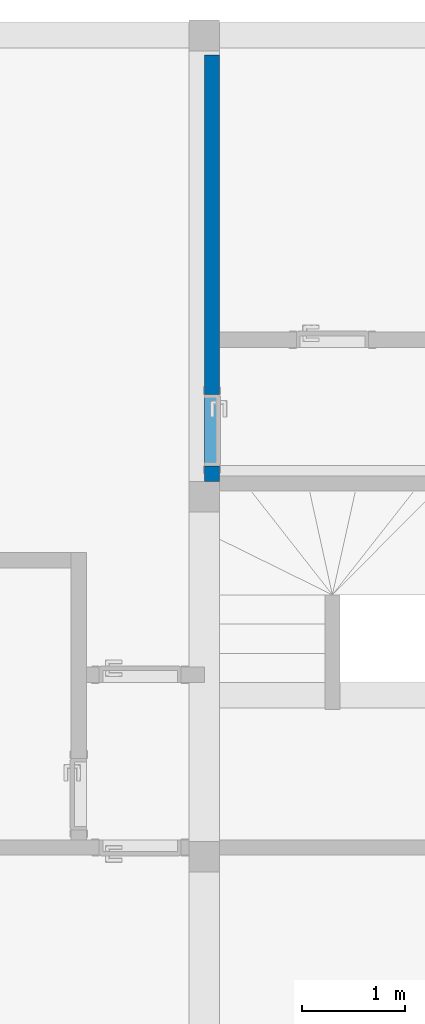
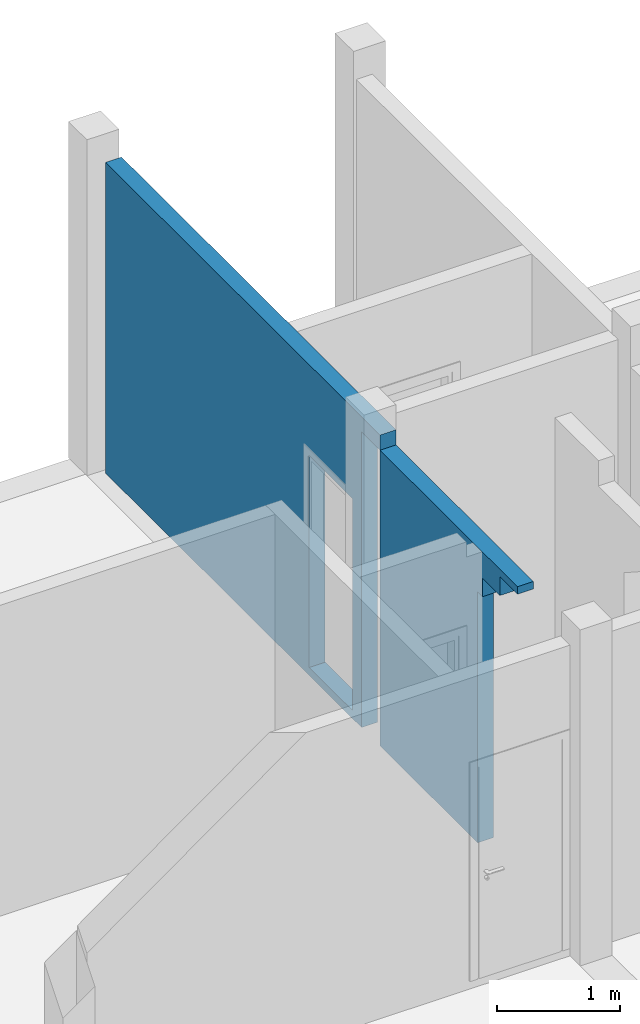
# One storey, part 8 of 11: 1 wall, 3 openings.
"""IFC2X3 building model written with IfcOpenShell, lengths in metres."""

import ifcopenshell
import ifcopenshell.guid

model = None  # the IFC model being written
_history = None  # IfcOwnerHistory: only IFC2X3 demands one
_inside = {}  # id of a spatial element -> (the spatial element, [elements in it])
_under = {}  # id of a project, library or spatial element -> (it, [spatial elements below it])
_declared = {}  # id of a project -> (the project, [libraries it declares])
_typed = {}  # id of a type object -> (the type object, [elements of that type])
_made_of = {}  # id of a material, layer set ... -> (it, [elements and type objects made of it])


def new_model(schema):
    """Start an empty IFC model of exactly this schema.

    Asked for "IFC4X3", IfcOpenShell would pick the latest addendum, in which some entities
    have other attributes; the version numbers below select the first issue.
    IFC2X3 requires an IfcOwnerHistory on every rooted entity: one is made here for all.
    """
    global model, _history
    if schema == "IFC4X3":
        model = ifcopenshell.file(schema_version=(4, 3, 0, 0))
    else:
        model = ifcopenshell.file(schema=schema)
    _inside.clear()
    _under.clear()
    _declared.clear()
    _typed.clear()
    _made_of.clear()
    _history = None
    if model.schema == "IFC2X3":
        org = make("IfcOrganization", Name="unknown")
        user = make(
            "IfcPersonAndOrganization",
            ThePerson=make("IfcPerson", FamilyName="unknown"),
            TheOrganization=org,
        )
        app = make(
            "IfcApplication",
            ApplicationDeveloper=org,
            Version="unknown",
            ApplicationFullName="unknown",
            ApplicationIdentifier="unknown",
        )
        _history = make(
            "IfcOwnerHistory",
            OwningUser=user,
            OwningApplication=app,
            ChangeAction="ADDED",
            CreationDate=0,
        )
    return model


def make(cls, **values):
    """One entity of the class cls with the attributes given. An attribute that is None is left unset."""
    return model.create_entity(
        cls, **{name: value for name, value in values.items() if value is not None}
    )


def entity(cls, *values):
    """Any entity or typed value of the class cls, its attributes in the order of the schema. None: left unset."""
    e = model.create_entity(cls)
    for i, value in enumerate(values):
        if value is not None:
            e[i] = value
    return e


def rooted(cls, **values):
    """An entity with a GlobalId (a new one), such as an element, a storey or a relation."""
    return make(cls, GlobalId=ifcopenshell.guid.new(), OwnerHistory=_history, **values)


def si_unit(unit_type, name, prefix=None):
    """IfcSIUnit, for example si_unit("LENGTHUNIT", "METRE", prefix="MILLI")."""
    return make("IfcSIUnit", UnitType=unit_type, Prefix=prefix, Name=name)


def converted_unit(unit_type, name, factor, base, dimensions=None, offset=None):
    """IfcConversionBasedUnit, such as the inch: factor (a typed value) times the base unit."""
    return make(
        "IfcConversionBasedUnit"
        if offset is None
        else "IfcConversionBasedUnitWithOffset",
        ConversionOffset=offset,
        Dimensions=None
        if dimensions is None
        else entity("IfcDimensionalExponents", *dimensions),
        UnitType=unit_type,
        Name=name,
        ConversionFactor=make(
            "IfcMeasureWithUnit", ValueComponent=factor, UnitComponent=base
        ),
    )


def derived_unit(unit_type, elements):
    """IfcDerivedUnit: a product of units, each with its exponent."""
    return make(
        "IfcDerivedUnit",
        Elements=[
            make("IfcDerivedUnitElement", Unit=unit, Exponent=power)
            for unit, power in elements
        ],
        UnitType=unit_type,
    )


def assignment(units):
    """IfcUnitAssignment: the units of a project."""
    return None if units is None else make("IfcUnitAssignment", Units=units)


def point(xyz):
    """IfcCartesianPoint."""
    return None if xyz is None else make("IfcCartesianPoint", Coordinates=xyz)


def direction(xyz):
    """IfcDirection."""
    return None if xyz is None else make("IfcDirection", DirectionRatios=xyz)


def frame(location, z_axis=None, x_axis=None):
    """IfcAxis2Placement3D, a coordinate frame: its origin and axes. An axis left out is left unset."""
    return make(
        "IfcAxis2Placement3D",
        Location=point(location),
        Axis=direction(z_axis),
        RefDirection=direction(x_axis),
    )


def frame_2d(location, x_axis=None):
    """IfcAxis2Placement2D, a coordinate frame in the plane: its origin and x axis."""
    return make(
        "IfcAxis2Placement2D", Location=point(location), RefDirection=direction(x_axis)
    )


def origin():
    """The frame at (0, 0, 0) with its axes left unset."""
    return frame((0.0, 0.0, 0.0))


def place(relative_to, where):
    """IfcLocalPlacement: puts the frame where relative to a parent placement (None: the world)."""
    return make(
        "IfcLocalPlacement", PlacementRelTo=relative_to, RelativePlacement=where
    )


def context(
    kind, dimensions, precision=None, world=None, true_north=None, identifier=None
):
    """IfcGeometricRepresentationContext, for example the 3D "Model" context."""
    return make(
        "IfcGeometricRepresentationContext",
        ContextIdentifier=identifier,
        ContextType=kind,
        CoordinateSpaceDimension=dimensions,
        Precision=precision,
        WorldCoordinateSystem=world,
        TrueNorth=true_north,
    )


def subcontext(parent, identifier, kind, view, scale=None):
    """IfcGeometricRepresentationSubContext, for example "Body" below "Model"."""
    return make(
        "IfcGeometricRepresentationSubContext",
        ContextIdentifier=identifier,
        ContextType=kind,
        ParentContext=parent,
        TargetScale=scale,
        TargetView=view,
    )


def project(units=None, contexts=None):
    """IfcProject with its units and contexts."""
    return rooted(
        "IfcProject",
        Name="project",
        RepresentationContexts=contexts,
        UnitsInContext=assignment(units),
    )


def spatial(cls, under=None, at=None, **own):
    """A site, building, storey or space (cls), placed at a placement, below another one or the project."""
    s = rooted(cls, ObjectPlacement=at, **own)
    if under is not None:
        _under.setdefault(under.id(), (under, []))[1].append(s)
    return s


def polyline(points):
    """IfcPolyline through the points."""
    return make("IfcPolyline", Points=[point(p) for p in points])


def profile(cls, at=None, kind="AREA", **sizes):
    """A parametric profile (cls). Its sizes go by their IFC names, for example OverallWidth=200.0."""
    return make(cls, ProfileType=kind, Position=at, **sizes)


def rectangle(**sizes):
    """IfcRectangleProfileDef."""
    return profile("IfcRectangleProfileDef", **sizes)


def outline(outer, holes=None, kind="AREA"):
    """IfcArbitraryClosedProfileDef: a profile drawn as a closed curve; with holes, ...WithVoids."""
    if holes is None:
        return make("IfcArbitraryClosedProfileDef", ProfileType=kind, OuterCurve=outer)
    return make(
        "IfcArbitraryProfileDefWithVoids",
        ProfileType=kind,
        OuterCurve=outer,
        InnerCurves=holes,
    )


def extrude(swept, where, along, depth):
    """IfcExtrudedAreaSolid: the profile swept, set in the frame where, extruded along a direction by depth."""
    return make(
        "IfcExtrudedAreaSolid",
        SweptArea=swept,
        Position=where,
        ExtrudedDirection=direction(along),
        Depth=depth,
    )


def clip(a, b, op="DIFFERENCE"):
    """IfcBooleanClippingResult: the solid a cut by the half space b."""
    return make(
        "IfcBooleanClippingResult", Operator=op, FirstOperand=a, SecondOperand=b
    )


def halfspace(plane, agree):
    """IfcHalfSpaceSolid: all space on one side of the plane z = 0 of the frame plane."""
    return make(
        "IfcHalfSpaceSolid",
        BaseSurface=make("IfcPlane", Position=plane),
        AgreementFlag=agree,
    )


def bounded_halfspace(plane, agree, where, boundary):
    """IfcPolygonalBoundedHalfSpace: a half space limited to a polygon's prism."""
    return make(
        "IfcPolygonalBoundedHalfSpace",
        BaseSurface=make("IfcPlane", Position=plane),
        AgreementFlag=agree,
        Position=where,
        PolygonalBoundary=boundary,
    )


def shape(context_of_items, identifier, shape_type, items):
    """IfcShapeRepresentation: the items that make up one representation, for example the "Body"."""
    return make(
        "IfcShapeRepresentation",
        ContextOfItems=context_of_items,
        RepresentationIdentifier=identifier,
        RepresentationType=shape_type,
        Items=items,
    )


def material(Name=None, Category=None):
    """IfcMaterial."""
    return make("IfcMaterial", Name=Name, Category=Category)


def layer(
    of_material, thickness, ventilated=None, Name=None, Category=None, Priority=None
):
    """IfcMaterialLayer: one layer of a wall or slab, of a material (None: an air gap)."""
    return make(
        "IfcMaterialLayer",
        Material=of_material,
        LayerThickness=thickness,
        IsVentilated=ventilated,
        Name=Name,
        Category=Category,
        Priority=Priority,
    )


def layer_set(layers, Name=None):
    """IfcMaterialLayerSet."""
    return make("IfcMaterialLayerSet", MaterialLayers=layers, LayerSetName=Name)


def layer_usage(for_layer_set, set_direction, sense, offset, extent=None):
    """IfcMaterialLayerSetUsage: how a layer set lies in its element."""
    return make(
        "IfcMaterialLayerSetUsage",
        ForLayerSet=for_layer_set,
        LayerSetDirection=set_direction,
        DirectionSense=sense,
        OffsetFromReferenceLine=offset,
        ReferenceExtent=extent,
    )


def made_of(thing, what):
    """Note that an element or type object is made of a material, layer set ...; save() writes the relation."""
    if what is not None:
        _made_of.setdefault(what.id(), (what, []))[1].append(thing)
    return thing


def type_object(cls, material=None, **own):
    """A type object (cls), such as IfcWallType, which elements share."""
    return made_of(rooted(cls, **own), material)


def element(
    cls,
    number,
    at=None,
    inside=None,
    cuts=None,
    type_object=None,
    material=None,
    context=None,
    identifier="Body",
    shape_type=None,
    held_by="IfcProductDefinitionShape",
    body=None,
    shapes=None,
    **own,
):
    """One element of the class cls, such as IfcWall. Its Tag is "e" and its number.

    at: its placement. inside: the storey or other place that contains it. cuts: it is an
    opening in that element (IfcRelVoidsElement). A single representation is given by context,
    identifier, shape_type and body (its items); several are given by shapes. held_by: the class
    of the entity that holds the representations. save() writes the other relations.
    """
    e = rooted(cls, Tag="e%d" % number, ObjectPlacement=at, **own)
    if body is not None:
        shapes = [shape(context, identifier, shape_type, body)]
    if shapes is not None:
        e.Representation = make(held_by, Representations=shapes)
    if inside is not None:
        _inside.setdefault(inside.id(), (inside, []))[1].append(e)
    if cuts is not None:
        rooted(
            "IfcRelVoidsElement", RelatingBuildingElement=cuts, RelatedOpeningElement=e
        )
    if type_object is not None:
        _typed.setdefault(type_object.id(), (type_object, []))[1].append(e)
    return made_of(e, material)


def aggregate(whole, parts):
    """IfcRelAggregates: a whole, such as a stair, and the parts it consists of."""
    return rooted("IfcRelAggregates", RelatingObject=whole, RelatedObjects=parts)


def save(model, path):
    """Write the relations noted so far, then the file.

    IfcRelAggregates (storeys below a building ...), IfcRelContainedInSpatialStructure (elements
    in a storey), IfcRelDefinesByType, IfcRelAssociatesMaterial and IfcRelDeclares: one each for
    every whole, place, type object, material and project.
    """
    for whole, parts in _under.values():
        aggregate(whole, parts)
    for where, things in _inside.values():
        rooted(
            "IfcRelContainedInSpatialStructure",
            RelatedElements=things,
            RelatingStructure=where,
        )
    for kind, things in _typed.values():
        rooted("IfcRelDefinesByType", RelatedObjects=things, RelatingType=kind)
    for what, things in _made_of.values():
        rooted("IfcRelAssociatesMaterial", RelatedObjects=things, RelatingMaterial=what)
    for by, libraries in _declared.values():
        rooted("IfcRelDeclares", RelatingContext=by, RelatedDefinitions=libraries)
    model.write(path)


model = new_model("IFC2X3")

# Units and contexts
model_context = context("Model", 3, precision=1e-05, world=origin(), true_north=direction((6.12303176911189e-17, 1.0)))
context_of_model = context(None, 3, precision=1e-05, world=origin(), true_north=direction((6.12303176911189e-17, 1.0)))
body_context = subcontext(model_context, "Body", "Model", "MODEL_VIEW")
ifc_project = project(units=[si_unit("LENGTHUNIT", "METRE"), si_unit("AREAUNIT", "SQUARE_METRE"), si_unit("VOLUMEUNIT", "CUBIC_METRE"), converted_unit("PLANEANGLEUNIT", "DEGREE", entity("IfcRatioMeasure", 0.0174532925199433), si_unit("PLANEANGLEUNIT", "RADIAN"), dimensions=[0, 0, 0, 0, 0, 0, 0]), si_unit("MASSUNIT", "GRAM", prefix="KILO"), si_unit("TIMEUNIT", "SECOND"), si_unit("FREQUENCYUNIT", "HERTZ"), si_unit("THERMODYNAMICTEMPERATUREUNIT", "DEGREE_CELSIUS"), derived_unit("THERMALTRANSMITTANCEUNIT", [(si_unit("MASSUNIT", "GRAM", prefix="KILO"), 1), (si_unit("THERMODYNAMICTEMPERATUREUNIT", "KELVIN"), -1), (si_unit("TIMEUNIT", "SECOND"), -3)]), derived_unit("VOLUMETRICFLOWRATEUNIT", [(si_unit("LENGTHUNIT", "METRE"), 3), (si_unit("TIMEUNIT", "SECOND"), -1)]), si_unit("ELECTRICCURRENTUNIT", "AMPERE"), si_unit("ELECTRICVOLTAGEUNIT", "VOLT"), si_unit("POWERUNIT", "WATT"), si_unit("FORCEUNIT", "NEWTON", prefix="KILO"), si_unit("ILLUMINANCEUNIT", "LUX"), si_unit("LUMINOUSFLUXUNIT", "LUMEN"), si_unit("LUMINOUSINTENSITYUNIT", "CANDELA"), si_unit("PRESSUREUNIT", "PASCAL")], contexts=[model_context, context_of_model])

# Site, building, storey
site_placement = place(None, origin())
site = spatial("IfcSite", under=ifc_project, at=site_placement, Name="Default", CompositionType="ELEMENT")
building_placement = place(site_placement, origin())
building = spatial("IfcBuilding", under=site, at=building_placement, CompositionType="ELEMENT")
storey_placement = place(building_placement, frame((0.0, 0.0, 3.45)))
storey = spatial("IfcBuildingStorey", under=building, at=storey_placement, Name="02.ES.PLANTA PRIMERA", CompositionType="ELEMENT", Elevation=3.45)

# Wall, openings
ifc_material = material(Name="Muro por defecto")
ifc_layer = layer(ifc_material, 0.15)
ifc_layer_set = layer_set([ifc_layer], Name="Muro básico:Por defecto - 15 cm")
ifc_layer_usage = layer_usage(ifc_layer_set, "AXIS2", "POSITIVE", -0.075)
wall_type = type_object("IfcWallType", Name="Muro básico:Por defecto - 15 cm", PredefinedType="STANDARD", material=ifc_layer_set)
wall_placement = place(storey_placement, frame((9.14000000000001, 12.9065177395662, 0.0), z_axis=(0.0, 0.0, 1.0), x_axis=(0.0, -1.0, 0.0)))
wall = element("IfcWallStandardCase", 1, at=wall_placement, inside=storey, type_object=wall_type, material=ifc_layer_usage, Name="Muro básico:Por defecto - 15 cm", ObjectType="Muro básico:Por defecto - 15 cm", context=body_context, shape_type="Clipping", body=[
    clip(clip(extrude(rectangle(XDim=6.68739048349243, YDim=0.150000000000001, at=frame_2d((3.34369524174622, -1.87350135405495e-16), x_axis=(-1.0, 0.0))), origin(), (0.0, 0.0, 1.0), 3.08), bounded_halfspace(frame((4.45651773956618, -0.0749999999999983, 2.93), z_axis=(0.0, 0.0, -1.0), x_axis=(1.0, 0.0, 0.0)), True, frame((4.45651773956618, -0.0749999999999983, 2.93), z_axis=(0.0, 0.0, -1.0), x_axis=(1.0, 0.0, 0.0)), polyline([(0.0, 0.0), (0.0, -0.149999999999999), (2.23087274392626, -0.149999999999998), (2.23087274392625, 0.0), (1.65999999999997, 0.0), (1.50999999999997, 0.0), (0.0, 0.0)]))), halfspace(frame((6.04151773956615, 0.0, 0.0), z_axis=(0.975353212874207, 0.0, -0.220649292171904), x_axis=(0.0, 1.0, 0.0)), False)),
])
opening_1_placement = place(storey_placement, frame((9.14000000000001, 12.9065177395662, 0.0), z_axis=(0.0, 0.0, 1.0), x_axis=(0.0, -1.0, 0.0)))
element("IfcOpeningElement", 2, at=opening_1_placement, cuts=wall, Name="Muro básico:Por defecto - 15 cm:1", ObjectType="Opening", context=body_context, shape_type="SweptSolid", body=[
    extrude(rectangle(XDim=2.93, YDim=0.149999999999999, at=frame_2d((0.0, 5.55111512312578e-16), x_axis=(0.0, 1.0))), frame((4.45651773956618, 0.0, 1.465), z_axis=(-1.0, 0.0, 0.0), x_axis=(0.0, -1.0, 0.0)), (0.0, 0.0, 1.0), 0.299999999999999),
])
opening_2_placement = place(wall_placement, origin())
element("IfcOpeningElement", 3, at=opening_2_placement, cuts=wall, Name="Muro básico:Por defecto - 15 cm", ObjectType="Opening", context=body_context, shape_type="SweptSolid", body=[
    extrude(outline(polyline([(-2.28005909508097, -0.293269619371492), (0.647087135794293, -0.293269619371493), (0.584202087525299, -0.0152939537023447), (0.403761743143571, -0.0561140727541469), (0.340876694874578, 0.221861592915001), (0.160436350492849, 0.181041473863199), (0.143695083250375, 0.255044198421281), (-2.28005909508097, -0.293269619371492)])), frame((6.2585696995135, 0.0749999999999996, 2.28857269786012), z_axis=(0.0, -1.0, 0.0), x_axis=(0.220649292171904, 0.0, 0.975353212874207)), (0.0, 0.0, 1.0), 0.15),
])
opening_3_placement = place(wall_placement, frame((3.30651773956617, -0.0750000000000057, 0.0799999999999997)))
element("IfcOpeningElement", 4, at=opening_3_placement, cuts=wall, Name="Puerta de 1 hoja:70 x 210 cm:1", ObjectType="Opening", context=body_context, shape_type="SweptSolid", body=[
    extrude(rectangle(XDim=2.09999999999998, YDim=0.7, at=frame_2d((1.04999999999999, 0.35), x_axis=(1.0, 0.0))), frame((0.0, 0.0, 0.0), z_axis=(0.0, 1.0, 0.0), x_axis=(0.0, 0.0, 1.0)), (0.0, 0.0, 1.0), 0.15),
])

save(model, "model.ifc")
